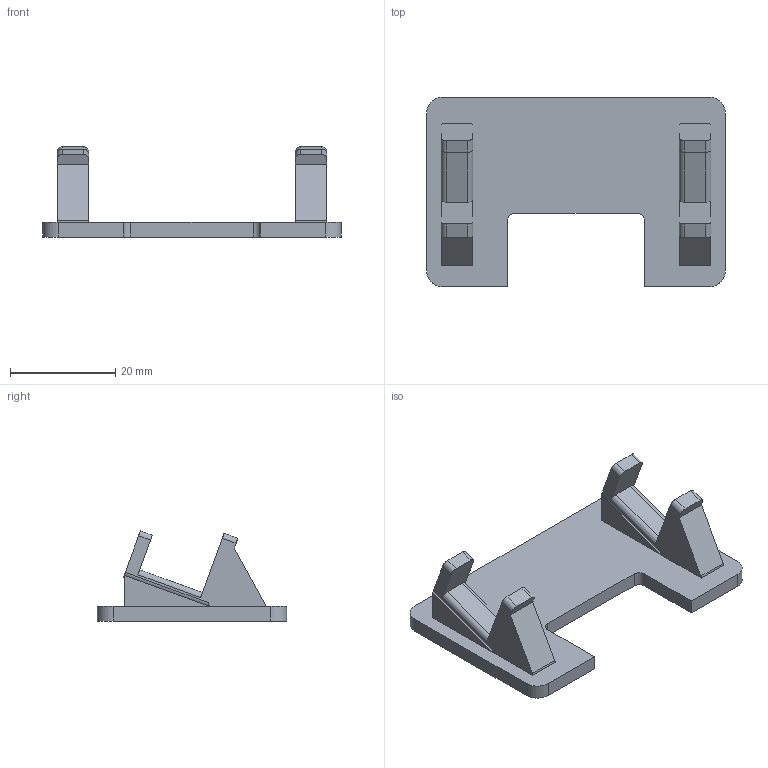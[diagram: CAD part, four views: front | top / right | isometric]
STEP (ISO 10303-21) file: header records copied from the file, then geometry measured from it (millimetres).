
FILE_DESCRIPTION(('Open CASCADE Model'),'2;1');
FILE_NAME('Open CASCADE Shape Model','2026-10-14T08:11:13',('Author'),( 'Open CASCADE'),'Open CASCADE STEP processor 7.9','Open CASCADE 7.9' ,'Unknown');
FILE_SCHEMA(('AUTOMOTIVE_DESIGN { 1 0 10303 214 1 1 1 1 }'));
Length unit declared in the file: millimetre
Products named in the file (1): Open CASCADE STEP translator 7.9 6
Bounding box: 56.8 x 36 x 17.16 mm (x, y, z)
Volume: 6950.5 mm3; surface area: 5148.2 mm2
Topology: 1 solids, 1 shells, 74 faces, 202 edges, 132 vertices
Faces by surface type: plane 42, cylinder 32
Entity records: 5286 total; most frequent: CARTESIAN_POINT 1373, DIRECTION 700, ORIENTED_EDGE 404, PCURVE 404, DEFINITIONAL_REPRESENTATION 404, LINE 390, VECTOR 390, EDGE_CURVE 202
